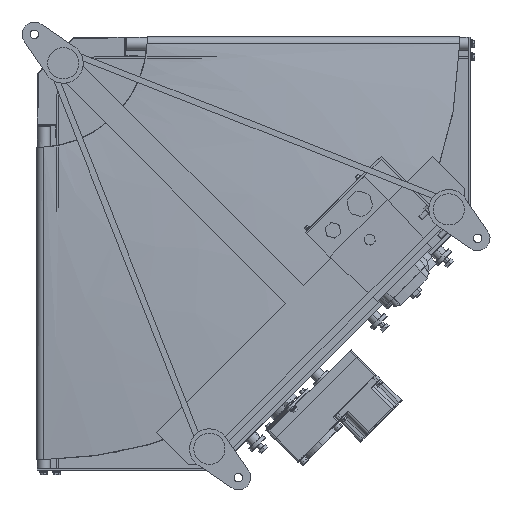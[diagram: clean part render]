
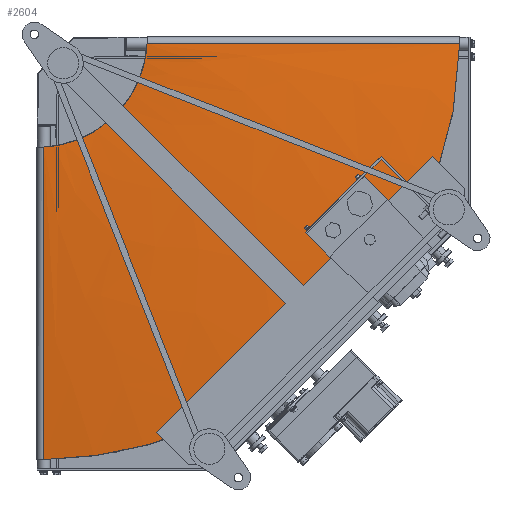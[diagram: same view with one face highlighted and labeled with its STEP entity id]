
A CAD part, front view. The second image highlights one B-rep face of the part: STEP entity #2604.
In plain terms, the highlighted free-form (B-spline) face has degree [3, 3] with [6, 4] control points.
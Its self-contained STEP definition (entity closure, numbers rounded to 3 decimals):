
#2604=ADVANCED_FACE('',(#5718),#5717,.F.);
#5717=( BOUNDED_SURFACE() B_SPLINE_SURFACE( 3,3,((#20441,#20442,#20443,#20444),(#20445,#20446,#20447,#20448),(#20449,#20450,#20451,#20452),(#20453,#20454,#20455,#20456),(#20457,#20458,#20459,#20460),(#20461,#20462,#20463,#20464)), .UNSPECIFIED.,.F.,.F.,.F.) B_SPLINE_SURFACE_WITH_KNOTS((4,2,4),(4,4),(-0.009,0.5,1.009),(-0.079,1.079), .UNSPECIFIED. ) GEOMETRIC_REPRESENTATION_ITEM() RATIONAL_B_SPLINE_SURFACE(((1.,1.,1.,1.),(1.,1.,1.,1.),(1.,1.,1.,1.),(1.,1.,1.,1.),(1.,1.,1.,1.),(1.,1.,1.,1.))) REPRESENTATION_ITEM('') SURFACE() );
#5718=FACE_OUTER_BOUND('',#20465,.T.);
#20441=CARTESIAN_POINT('',(687.457,-18.164,-0.419));
#20442=CARTESIAN_POINT('',(502.087,-18.714,-3.045));
#20443=CARTESIAN_POINT('',(316.718,-19.263,-5.671));
#20444=CARTESIAN_POINT('',(131.348,-19.813,-8.296));
#20445=CARTESIAN_POINT('',(686.764,-47.312,-180.965));
#20446=CARTESIAN_POINT('',(500.949,-37.432,-134.115));
#20447=CARTESIAN_POINT('',(315.135,-27.551,-87.264));
#20448=CARTESIAN_POINT('',(129.321,-17.671,-40.414));
#20449=CARTESIAN_POINT('',(613.513,-63.694,-355.32));
#20450=CARTESIAN_POINT('',(447.587,-47.951,-260.393));
#20451=CARTESIAN_POINT('',(281.66,-32.209,-165.466));
#20452=CARTESIAN_POINT('',(115.734,-16.467,-70.538));
#20453=CARTESIAN_POINT('',(355.32,-63.694,-613.513));
#20454=CARTESIAN_POINT('',(260.393,-47.951,-447.587));
#20455=CARTESIAN_POINT('',(165.466,-32.209,-281.66));
#20456=CARTESIAN_POINT('',(70.538,-16.467,-115.734));
#20457=CARTESIAN_POINT('',(180.965,-47.312,-686.764));
#20458=CARTESIAN_POINT('',(134.115,-37.432,-500.949));
#20459=CARTESIAN_POINT('',(87.264,-27.551,-315.135));
#20460=CARTESIAN_POINT('',(40.414,-17.671,-129.321));
#20461=CARTESIAN_POINT('',(0.419,-18.164,-687.457));
#20462=CARTESIAN_POINT('',(3.045,-18.714,-502.087));
#20463=CARTESIAN_POINT('',(5.671,-19.263,-316.718));
#20464=CARTESIAN_POINT('',(8.296,-19.813,-131.348));
#20465=EDGE_LOOP('',(#29637,#29638,#29639,#29640));
#29637=ORIENTED_EDGE('',*,*,#35939,.F.);
#29638=ORIENTED_EDGE('',*,*,#35934,.T.);
#29639=ORIENTED_EDGE('',*,*,#35681,.T.);
#29640=ORIENTED_EDGE('',*,*,#35673,.F.);
#35673=EDGE_CURVE('',#40211,#40218,#40219,.T.);
#35681=EDGE_CURVE('',#40271,#40218,#40272,.T.);
#35934=EDGE_CURVE('',#41930,#40271,#41951,.T.);
#35939=EDGE_CURVE('',#41930,#40211,#41981,.T.);
#40211=VERTEX_POINT('',#62272);
#40218=VERTEX_POINT('',#62303);
#40219=LINE('',#62304,#62305);
#40271=VERTEX_POINT('',#62505);
#40272=(BOUNDED_CURVE() B_SPLINE_CURVE(3,(#62506,#62507,#62508,#62509,#62510,#62511,#62512,#62513,#62514,#62515,#62516),.UNSPECIFIED.,.F.,.F.) B_SPLINE_CURVE_WITH_KNOTS((4,1,1,1,1,1,1,1,4),(0.,0.134,0.224,0.334,0.5,0.666,0.776,0.866,1.),.UNSPECIFIED.) CURVE() GEOMETRIC_REPRESENTATION_ITEM() RATIONAL_B_SPLINE_CURVE((1.,1.,1.,1.,1.,1.,1.,1.,1.,1.,1.)) REPRESENTATION_ITEM('') );
#41930=VERTEX_POINT('',#64268);
#41951=LINE('',#64337,#64338);
#41981=(BOUNDED_CURVE() B_SPLINE_CURVE(3,(#64447,#64448,#64449,#64450,#64451,#64452,#64453,#64454,#64455,#64456,#64457,#64458,#64459,#64460,#64461,#64462,#64463,#64464,#64465,#64466,#64467,#64468,#64469,#64470,#64471,#64472,#64473,#64474,#64475,#64476,#64477,#64478,#64479,#64480),.UNSPECIFIED.,.F.,.F.) B_SPLINE_CURVE_WITH_KNOTS((4,2,2,2,2,2,2,2,2,2,2,2,2,2,2,2,4),(0.,0.063,0.125,0.188,0.25,0.313,0.375,0.438,0.5,0.563,0.625,0.688,0.75,0.813,0.875,0.938,1.),.UNSPECIFIED.) CURVE() GEOMETRIC_REPRESENTATION_ITEM() RATIONAL_B_SPLINE_CURVE((1.,1.,1.,1.,1.,1.,1.,1.,1.,1.,1.,1.,1.,1.,1.,1.,1.,1.,1.,1.,1.,1.,1.,1.,1.,1.,1.,1.,1.,1.,1.,1.,1.,1.)) REPRESENTATION_ITEM('') );
#62272=CARTESIAN_POINT('',(10.,-19.7,-648.923));
#62303=CARTESIAN_POINT('',(10.,-19.7,-168.704));
#62304=CARTESIAN_POINT('',(10.,-19.7,-648.923));
#62305=VECTOR('',#62306,480.219);
#62306=DIRECTION('',(0.,0.,1.));
#62505=CARTESIAN_POINT('',(168.704,-19.7,-10.));
#62506=CARTESIAN_POINT('',(168.704,-19.7,-10.));
#62507=CARTESIAN_POINT('',(168.056,-19.691,-20.952));
#62508=CARTESIAN_POINT('',(165.188,-19.679,-39.108));
#62509=CARTESIAN_POINT('',(156.616,-19.664,-65.058));
#62510=CARTESIAN_POINT('',(143.204,-19.653,-91.899));
#62511=CARTESIAN_POINT('',(120.677,-19.647,-120.677));
#62512=CARTESIAN_POINT('',(91.899,-19.653,-143.204));
#62513=CARTESIAN_POINT('',(65.058,-19.664,-156.616));
#62514=CARTESIAN_POINT('',(39.108,-19.679,-165.188));
#62515=CARTESIAN_POINT('',(20.952,-19.691,-168.056));
#62516=CARTESIAN_POINT('',(10.,-19.7,-168.704));
#64268=CARTESIAN_POINT('',(648.923,-19.7,-10.));
#64337=CARTESIAN_POINT('',(648.923,-19.7,-10.));
#64338=VECTOR('',#64339,480.219);
#64339=DIRECTION('',(-1.,0.,0.));
#64447=CARTESIAN_POINT('',(648.923,-19.7,-10.));
#64448=CARTESIAN_POINT('',(648.602,-22.927,-30.66));
#64449=CARTESIAN_POINT('',(647.299,-25.994,-51.313));
#64450=CARTESIAN_POINT('',(642.714,-31.783,-92.46));
#64451=CARTESIAN_POINT('',(639.429,-34.506,-112.957));
#64452=CARTESIAN_POINT('',(630.898,-39.583,-153.604));
#64453=CARTESIAN_POINT('',(625.653,-41.937,-173.75));
#64454=CARTESIAN_POINT('',(613.238,-46.251,-213.481));
#64455=CARTESIAN_POINT('',(606.066,-48.209,-233.064));
#64456=CARTESIAN_POINT('',(589.86,-51.712,-271.474));
#64457=CARTESIAN_POINT('',(580.828,-53.256,-290.301));
#64458=CARTESIAN_POINT('',(560.98,-55.915,-327.015));
#64459=CARTESIAN_POINT('',(550.164,-57.03,-344.9));
#64460=CARTESIAN_POINT('',(526.848,-58.818,-379.564));
#64461=CARTESIAN_POINT('',(514.345,-59.491,-396.341));
#64462=CARTESIAN_POINT('',(487.769,-60.39,-428.623));
#64463=CARTESIAN_POINT('',(473.697,-60.615,-444.128));
#64464=CARTESIAN_POINT('',(444.12,-60.615,-473.704));
#64465=CARTESIAN_POINT('',(428.614,-60.39,-487.776));
#64466=CARTESIAN_POINT('',(396.332,-59.491,-514.351));
#64467=CARTESIAN_POINT('',(379.555,-58.817,-526.854));
#64468=CARTESIAN_POINT('',(344.893,-57.029,-550.169));
#64469=CARTESIAN_POINT('',(327.008,-55.915,-560.984));
#64470=CARTESIAN_POINT('',(290.293,-53.256,-580.831));
#64471=CARTESIAN_POINT('',(271.463,-51.711,-589.864));
#64472=CARTESIAN_POINT('',(233.05,-48.207,-606.07));
#64473=CARTESIAN_POINT('',(213.468,-46.249,-613.242));
#64474=CARTESIAN_POINT('',(173.743,-41.937,-625.656));
#64475=CARTESIAN_POINT('',(153.602,-39.583,-630.9));
#64476=CARTESIAN_POINT('',(112.964,-34.507,-639.429));
#64477=CARTESIAN_POINT('',(92.469,-31.784,-642.713));
#64478=CARTESIAN_POINT('',(51.319,-25.994,-647.298));
#64479=CARTESIAN_POINT('',(30.66,-22.927,-648.603));
#64480=CARTESIAN_POINT('',(10.,-19.7,-648.923));
